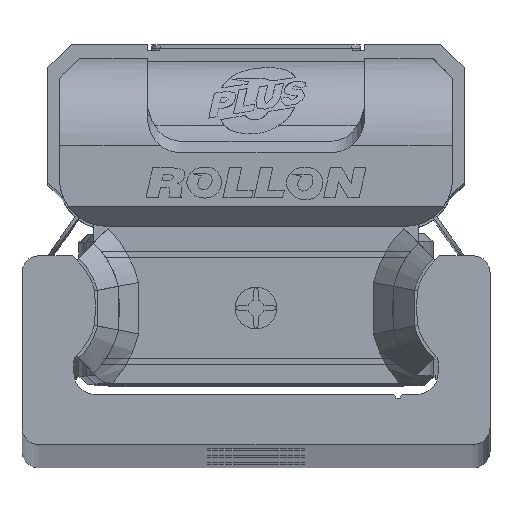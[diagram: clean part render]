
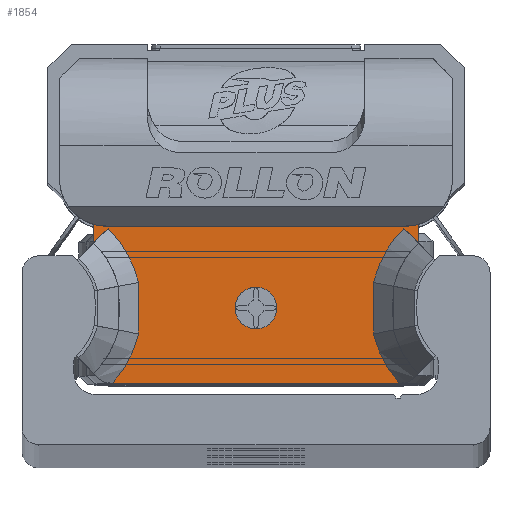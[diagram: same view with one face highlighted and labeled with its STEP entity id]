
A CAD part, top view. The second image highlights one B-rep face of the part: STEP entity #1854.
In plain terms, the highlighted planar face has unit normal (0, 0, 1) as drawn and (0, 0, -1) by its records, which use the part's own axes.
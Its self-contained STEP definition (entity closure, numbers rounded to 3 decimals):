
#1854 = ADVANCED_FACE( '', ( #3913, #3914 ), #3915, .F. );
#3913 = FACE_BOUND( '', #6166, .T. );
#3914 = FACE_OUTER_BOUND( '', #6167, .T. );
#3915 = PLANE( '', #6168 );
#6166 = EDGE_LOOP( '', ( #11150 ) );
#6167 = EDGE_LOOP( '', ( #11151, #11152, #11153, #11154, #11155, #11156, #11157, #11158, #11159, #11160, #11161, #11162, #11163, #11164 ) );
#6168 = AXIS2_PLACEMENT_3D( '', #11165, #11166, #11167 );
#11150 = ORIENTED_EDGE( '', *, *, #14003, .T. );
#11151 = ORIENTED_EDGE( '', *, *, #13548, .F. );
#11152 = ORIENTED_EDGE( '', *, *, #14162, .T. );
#11153 = ORIENTED_EDGE( '', *, *, #14138, .T. );
#11154 = ORIENTED_EDGE( '', *, *, #12843, .T. );
#11155 = ORIENTED_EDGE( '', *, *, #12451, .T. );
#11156 = ORIENTED_EDGE( '', *, *, #13479, .T. );
#11157 = ORIENTED_EDGE( '', *, *, #14115, .T. );
#11158 = ORIENTED_EDGE( '', *, *, #13057, .T. );
#11159 = ORIENTED_EDGE( '', *, *, #12303, .T. );
#11160 = ORIENTED_EDGE( '', *, *, #14163, .T. );
#11161 = ORIENTED_EDGE( '', *, *, #14164, .T. );
#11162 = ORIENTED_EDGE( '', *, *, #13067, .T. );
#11163 = ORIENTED_EDGE( '', *, *, #12595, .T. );
#11164 = ORIENTED_EDGE( '', *, *, #12687, .T. );
#11165 = CARTESIAN_POINT( '', ( 9.7, 4.89, -10.6 ) );
#11166 = DIRECTION( '', ( 0., 0., 1. ) );
#11167 = DIRECTION( '', ( 1., 0., 0. ) );
#12303 = EDGE_CURVE( '', #14599, #14596, #14600, .T. );
#12451 = EDGE_CURVE( '', #14856, #14857, #14858, .T. );
#12595 = EDGE_CURVE( '', #15097, #15098, #15099, .T. );
#12687 = EDGE_CURVE( '', #15098, #15261, #15263, .T. );
#12843 = EDGE_CURVE( '', #15511, #14856, #15518, .T. );
#13057 = EDGE_CURVE( '', #15868, #14599, #15869, .T. );
#13067 = EDGE_CURVE( '', #15883, #15097, #15884, .T. );
#13479 = EDGE_CURVE( '', #14857, #16508, #16510, .T. );
#13548 = EDGE_CURVE( '', #16602, #15261, #16604, .T. );
#14003 = EDGE_CURVE( '', #17201, #17201, #17202, .T. );
#14115 = EDGE_CURVE( '', #16508, #15868, #17331, .T. );
#14138 = EDGE_CURVE( '', #17354, #15511, #17356, .T. );
#14162 = EDGE_CURVE( '', #16602, #17354, #17381, .T. );
#14163 = EDGE_CURVE( '', #14596, #14343, #17382, .T. );
#14164 = EDGE_CURVE( '', #14343, #15883, #17383, .T. );
#14343 = VERTEX_POINT( '', #17579 );
#14596 = VERTEX_POINT( '', #17904 );
#14599 = VERTEX_POINT( '', #17912 );
#14600 = B_SPLINE_CURVE_WITH_KNOTS( '', 2, ( #17913, #17914, #17915 ), .UNSPECIFIED., .F., .F., ( 3, 3 ), ( 0., 1. ), .UNSPECIFIED. );
#14856 = VERTEX_POINT( '', #18323 );
#14857 = VERTEX_POINT( '', #18324 );
#14858 = LINE( '', #18325, #18326 );
#15097 = VERTEX_POINT( '', #18679 );
#15098 = VERTEX_POINT( '', #18680 );
#15099 = B_SPLINE_CURVE_WITH_KNOTS( '', 2, ( #18681, #18682, #18683 ), .UNSPECIFIED., .F., .F., ( 3, 3 ), ( 0., 1. ), .UNSPECIFIED. );
#15261 = VERTEX_POINT( '', #18892 );
#15263 = LINE( '', #18895, #18896 );
#15511 = VERTEX_POINT( '', #19267 );
#15518 = CIRCLE( '', #19276, 2.8 );
#15868 = VERTEX_POINT( '', #19742 );
#15869 = B_SPLINE_CURVE_WITH_KNOTS( '', 2, ( #19743, #19744, #19745 ), .UNSPECIFIED., .F., .F., ( 3, 3 ), ( 0., 1. ), .UNSPECIFIED. );
#15883 = VERTEX_POINT( '', #19766 );
#15884 = B_SPLINE_CURVE_WITH_KNOTS( '', 2, ( #19767, #19768, #19769 ), .UNSPECIFIED., .F., .F., ( 3, 3 ), ( 0., 1. ), .UNSPECIFIED. );
#16508 = VERTEX_POINT( '', #20668 );
#16510 = LINE( '', #20671, #20672 );
#16602 = VERTEX_POINT( '', #20812 );
#16604 = LINE( '', #20815, #20816 );
#17201 = VERTEX_POINT( '', #21693 );
#17202 = CIRCLE( '', #21694, 1.25 );
#17331 = B_SPLINE_CURVE_WITH_KNOTS( '', 2, ( #21871, #21872, #21873, #21874, #21875 ), .UNSPECIFIED., .F., .F., ( 3, 2, 3 ), ( 0., 0.5, 1. ), .UNSPECIFIED. );
#17354 = VERTEX_POINT( '', #21900 );
#17356 = LINE( '', #21903, #21904 );
#17381 = CIRCLE( '', #21951, 2.8 );
#17382 = LINE( '', #21952, #21953 );
#17383 = B_SPLINE_CURVE_WITH_KNOTS( '', 2, ( #21954, #21955, #21956 ), .UNSPECIFIED., .F., .F., ( 3, 3 ), ( 0.1, 1. ), .UNSPECIFIED. );
#17579 = CARTESIAN_POINT( '', ( -8.59, -4.893, -10.6 ) );
#17904 = CARTESIAN_POINT( '', ( 8.59, -4.893, -10.6 ) );
#17912 = CARTESIAN_POINT( '', ( 7.031, -1.944, -10.6 ) );
#17913 = CARTESIAN_POINT( '', ( 7.031, -1.944, -10.6 ) );
#17914 = CARTESIAN_POINT( '', ( 7.429, -3.615, -10.6 ) );
#17915 = CARTESIAN_POINT( '', ( 8.588, -4.89, -10.6 ) );
#18323 = CARTESIAN_POINT( '', ( 9.7, 4.612, -10.6 ) );
#18324 = CARTESIAN_POINT( '', ( 9.7, 3.497, -10.6 ) );
#18325 = CARTESIAN_POINT( '', ( 9.7, 4.89, -10.6 ) );
#18326 = VECTOR( '', #22584, 1000. );
#18679 = CARTESIAN_POINT( '', ( -7.031, 1.144, -10.6 ) );
#18680 = CARTESIAN_POINT( '', ( -8.853, 4.366, -10.6 ) );
#18681 = CARTESIAN_POINT( '', ( -7.031, 1.144, -10.6 ) );
#18682 = CARTESIAN_POINT( '', ( -7.477, 3.018, -10.6 ) );
#18683 = CARTESIAN_POINT( '', ( -8.853, 4.366, -10.6 ) );
#18892 = CARTESIAN_POINT( '', ( -9.7, 3.494, -10.6 ) );
#18895 = CARTESIAN_POINT( '', ( -8.853, 4.366, -10.6 ) );
#18896 = VECTOR( '', #22887, 1000. );
#19267 = CARTESIAN_POINT( '', ( 8.95, 4.51, -10.6 ) );
#19276 = AXIS2_PLACEMENT_3D( '', #23095, #23096, #23097 );
#19742 = CARTESIAN_POINT( '', ( 7.031, 1.144, -10.6 ) );
#19743 = CARTESIAN_POINT( '', ( 7.031, 1.144, -10.6 ) );
#19744 = CARTESIAN_POINT( '', ( 6.929, -0.4, -10.6 ) );
#19745 = CARTESIAN_POINT( '', ( 7.031, -1.944, -10.6 ) );
#19766 = CARTESIAN_POINT( '', ( -7.031, -1.944, -10.6 ) );
#19767 = CARTESIAN_POINT( '', ( -7.031, -1.944, -10.6 ) );
#19768 = CARTESIAN_POINT( '', ( -6.929, -0.4, -10.6 ) );
#19769 = CARTESIAN_POINT( '', ( -7.031, 1.144, -10.6 ) );
#20668 = CARTESIAN_POINT( '', ( 8.853, 4.366, -10.6 ) );
#20671 = CARTESIAN_POINT( '', ( 9.7, 3.501, -10.6 ) );
#20672 = VECTOR( '', #23997, 1000. );
#20812 = CARTESIAN_POINT( '', ( -9.7, 4.612, -10.6 ) );
#20815 = CARTESIAN_POINT( '', ( -9.7, 4.89, -10.6 ) );
#20816 = VECTOR( '', #24091, 1000. );
#21693 = CARTESIAN_POINT( '', ( 1.25, -0.39, -10.6 ) );
#21694 = AXIS2_PLACEMENT_3D( '', #24615, #24616, #24617 );
#21871 = CARTESIAN_POINT( '', ( 8.853, 4.366, -10.6 ) );
#21872 = CARTESIAN_POINT( '', ( 8.182, 3.708, -10.6 ) );
#21873 = CARTESIAN_POINT( '', ( 7.715, 2.883, -10.6 ) );
#21874 = CARTESIAN_POINT( '', ( 7.249, 2.058, -10.6 ) );
#21875 = CARTESIAN_POINT( '', ( 7.031, 1.144, -10.6 ) );
#21900 = CARTESIAN_POINT( '', ( -8.95, 4.51, -10.6 ) );
#21903 = CARTESIAN_POINT( '', ( 9.7, 4.51, -10.6 ) );
#21904 = VECTOR( '', #24729, 1000. );
#21951 = AXIS2_PLACEMENT_3D( '', #24739, #24740, #24741 );
#21952 = CARTESIAN_POINT( '', ( 9.7, -4.89, -10.6 ) );
#21953 = VECTOR( '', #24742, 1000. );
#21954 = CARTESIAN_POINT( '', ( -8.587, -4.89, -10.6 ) );
#21955 = CARTESIAN_POINT( '', ( -7.432, -3.63, -10.6 ) );
#21956 = CARTESIAN_POINT( '', ( -7.031, -1.944, -10.6 ) );
#22584 = DIRECTION( '', ( 0., -1., 0. ) );
#22887 = DIRECTION( '', ( -0.7, -0.714, 0. ) );
#23095 = CARTESIAN_POINT( '', ( 8.95, 7.31, -10.6 ) );
#23096 = DIRECTION( '', ( 0., 0., 1. ) );
#23097 = DIRECTION( '', ( 1., 0., 0. ) );
#23997 = DIRECTION( '', ( -0.7, 0.714, 0. ) );
#24091 = DIRECTION( '', ( 0., -1., 0. ) );
#24615 = CARTESIAN_POINT( '', ( 0., -0.39, -10.6 ) );
#24616 = DIRECTION( '', ( 0., 0., 1. ) );
#24617 = DIRECTION( '', ( 1., 0., 0. ) );
#24729 = DIRECTION( '', ( 1., 0., 0. ) );
#24739 = CARTESIAN_POINT( '', ( -8.95, 7.31, -10.6 ) );
#24740 = DIRECTION( '', ( 0., 0., 1. ) );
#24741 = DIRECTION( '', ( 1., 0., 0. ) );
#24742 = DIRECTION( '', ( -1., 0., 0. ) );
